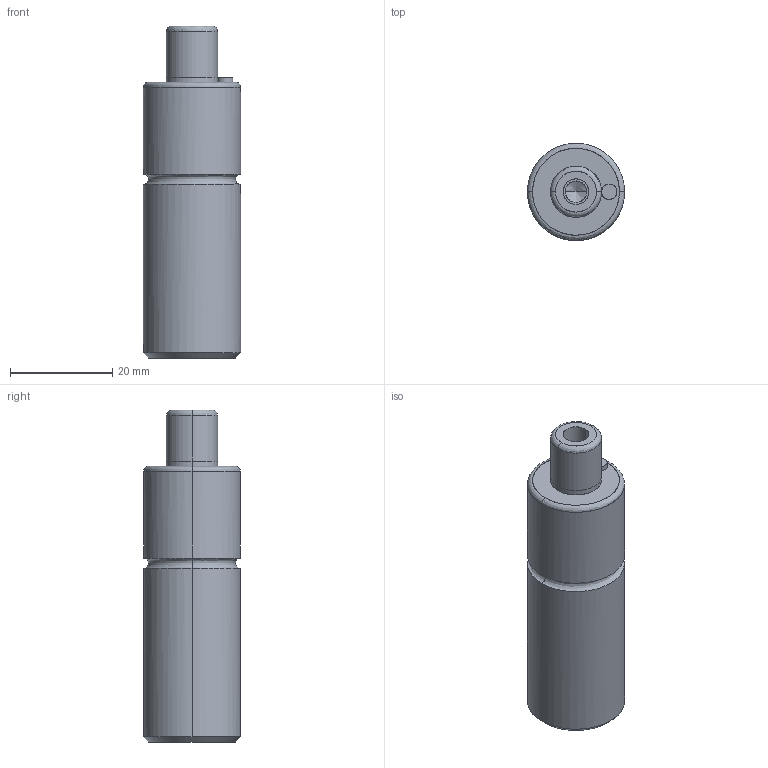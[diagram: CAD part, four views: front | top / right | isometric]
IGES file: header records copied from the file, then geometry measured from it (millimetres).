
Global section: file name: E:\UnigraphicsGraphicData\MISUMI_PRESS-PARTS\IGES\3d_mgsa19-10_04550_r00.igs; native system: NX V5.0; preprocessor: UGS NX IGES V5.0; author: MISUMI; date: 20110105.161430; units: millimetre
Bounding box: 19 x 18.98 x 65 mm (x, y, z)
Surface area: 4412.1 mm2 (no closed solid volume)
Topology: 0 solids, 0 shells, 36 faces, 216 edges, 211 vertices
Faces by surface type: bspline 36
